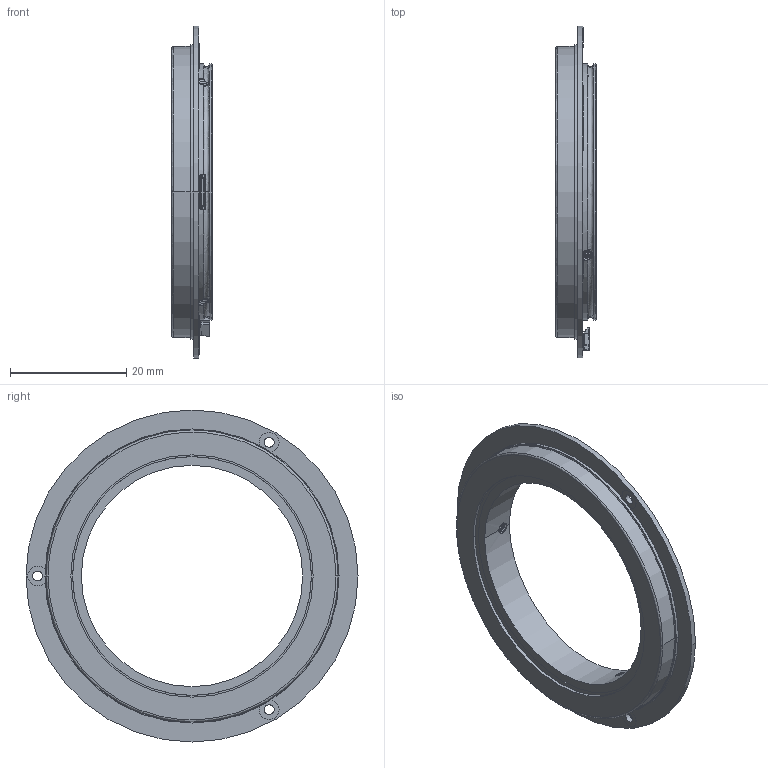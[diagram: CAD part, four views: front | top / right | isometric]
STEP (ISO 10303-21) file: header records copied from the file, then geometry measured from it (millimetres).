
FILE_DESCRIPTION (( 'STEP AP214' ), '1' );
FILE_NAME ('MBS-38-57¸üÐÂ.STEP', '2024-07-16T03:33:06', ( '' ), ( '' ), 'SwSTEP 2.0', 'SolidWorks 2016', '' );
FILE_SCHEMA (( 'AUTOMOTIVE_DESIGN' ));
Length unit declared in the file: millimetre
Products named in the file (1): MBS-38-57載陔
Bounding box: 7.01 x 57 x 57 mm (x, y, z)
Volume: 3707.5 mm3; surface area: 8431 mm2
Topology: 6 solids, 32 shells, 798 faces, 2055 edges, 1357 vertices
Faces by surface type: plane 559, bspline 161, cylinder 69, cone 9
Entity records: 83750 total; most frequent: CARTESIAN_POINT 62370, ORIENTED_EDGE 4110, DIRECTION 3109, EDGE_CURVE 2055, LINE 1527, VECTOR 1527, VERTEX_POINT 1357, EDGE_LOOP 862
